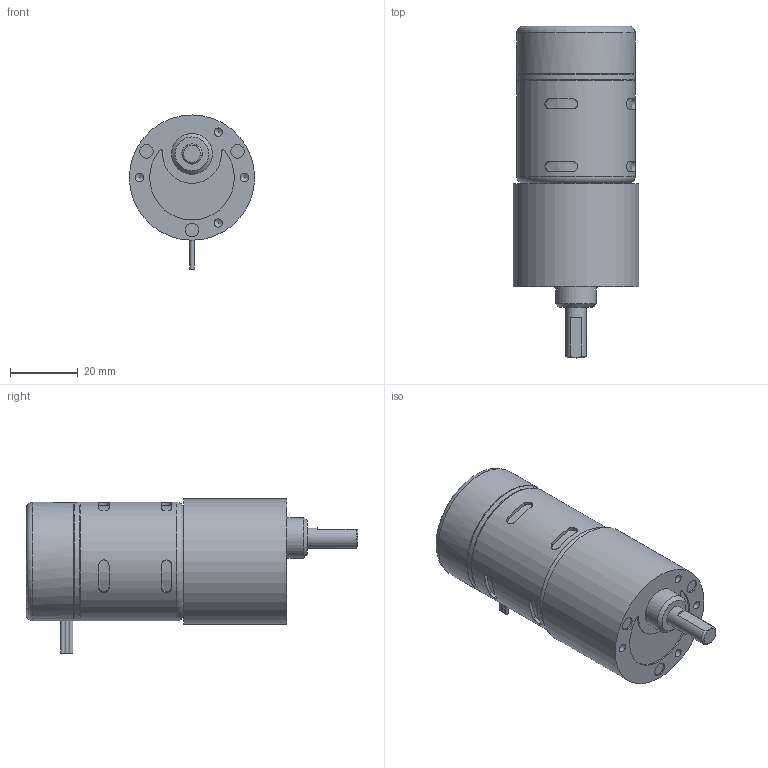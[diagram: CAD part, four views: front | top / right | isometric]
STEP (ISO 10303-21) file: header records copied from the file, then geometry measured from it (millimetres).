
FILE_DESCRIPTION((''),'2;1');
FILE_NAME('C:\Documents and Settings\SSEGAWA\デスクトップ\TP-3546B-KM-5.STP','2013-07-30T15:53:15',('SSEGAWA'),(''),'Autodesk Inventor 2010','Autodesk Inventor 2010','');
FILE_SCHEMA(('CONFIG_CONTROL_DESIGN'));
Length unit declared in the file: millimetre
Products named in the file (1): tp_3546bd_km_5_Shrinkwrap_1
Bounding box: 37 x 98 x 45.5 mm (x, y, z)
Volume: 77934.6 mm3; surface area: 12173 mm2
Topology: 1 solids, 5 shells, 106 faces, 237 edges, 153 vertices
Faces by surface type: plane 43, cylinder 43, bspline 16, torus 2, cone 2
Full cylindrical faces by diameter (mm): 1.2 x2, 4 x3, 6 x1, 12 x1, 34.6 x1, 35 x3, 37 x1
Entity records: 3466 total; most frequent: CARTESIAN_POINT 1264, DIRECTION 429, ORIENTED_EDGE 376, EDGE_CURVE 188, AXIS2_PLACEMENT_3D 184, EDGE_LOOP 149, VERTEX_POINT 133, STYLED_ITEM 107
